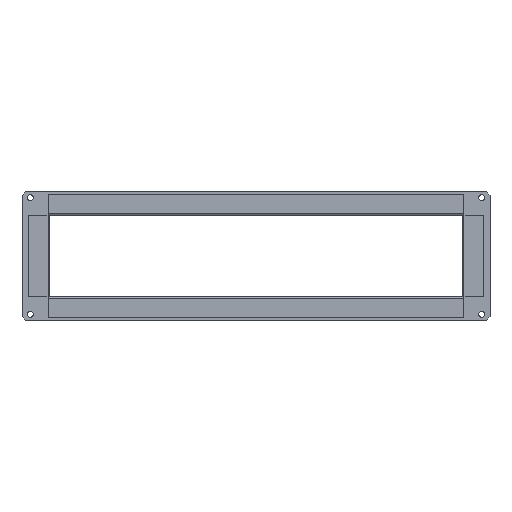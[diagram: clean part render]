
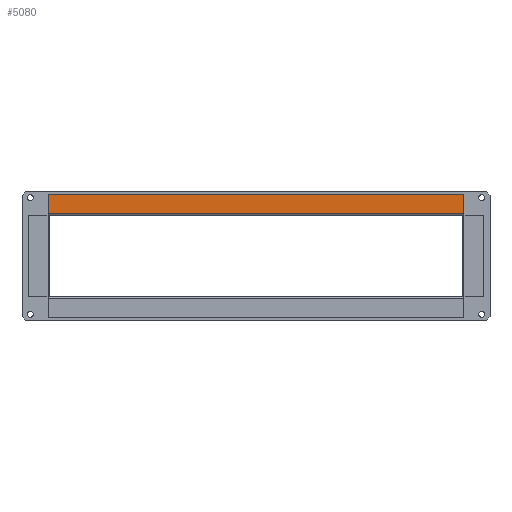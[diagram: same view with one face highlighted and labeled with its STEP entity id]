
A CAD part, top view. The second image highlights one B-rep face of the part: STEP entity #5080.
In plain terms, the highlighted planar face has unit normal (0, 0, 1) as drawn and (0, 0, -1) by its records, which use the part's own axes.
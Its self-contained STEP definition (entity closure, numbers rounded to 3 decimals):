
#136 = PLANE ( 'NONE',  #660 ) ;
#268 = EDGE_CURVE ( 'NONE', #1874, #4935, #2111, .T. ) ;
#273 = ORIENTED_EDGE ( 'NONE', *, *, #4079, .T. ) ;
#442 = ORIENTED_EDGE ( 'NONE', *, *, #268, .F. ) ;
#660 = AXIS2_PLACEMENT_3D ( 'NONE', #2198, #5776, #2715 ) ;
#705 = EDGE_LOOP ( 'NONE', ( #442, #2132, #767, #273 ) ) ;
#744 = DIRECTION ( 'NONE',  ( -1., 0., 0. ) ) ;
#767 = ORIENTED_EDGE ( 'NONE', *, *, #3829, .T. ) ;
#888 = LINE ( 'NONE', #1660, #4991 ) ;
#1001 = CARTESIAN_POINT ( 'NONE',  ( 250.8, 1.8, 0. ) ) ;
#1058 = CARTESIAN_POINT ( 'NONE',  ( 250.8, 0., 0. ) ) ;
#1545 = CARTESIAN_POINT ( 'NONE',  ( -250.8, 1.8, 0. ) ) ;
#1583 = CARTESIAN_POINT ( 'NONE',  ( -250.8, 0., 0. ) ) ;
#1655 = CARTESIAN_POINT ( 'NONE',  ( -250.8, 25., 0. ) ) ;
#1660 = CARTESIAN_POINT ( 'NONE',  ( 250.8, 25., 0. ) ) ;
#1874 = VERTEX_POINT ( 'NONE', #1655 ) ;
#2111 = LINE ( 'NONE', #1583, #6042 ) ;
#2132 = ORIENTED_EDGE ( 'NONE', *, *, #3957, .F. ) ;
#2198 = CARTESIAN_POINT ( 'NONE',  ( 250.8, 0., 0. ) ) ;
#2715 = DIRECTION ( 'NONE',  ( -1., 0., 0. ) ) ;
#3058 = LINE ( 'NONE', #1058, #4273 ) ;
#3277 = VERTEX_POINT ( 'NONE', #1001 ) ;
#3829 = EDGE_CURVE ( 'NONE', #4658, #3277, #3058, .T. ) ;
#3957 = EDGE_CURVE ( 'NONE', #4658, #1874, #888, .T. ) ;
#4034 = VECTOR ( 'NONE', #744, 1000. ) ;
#4079 = EDGE_CURVE ( 'NONE', #3277, #4935, #6564, .T. ) ;
#4144 = DIRECTION ( 'NONE',  ( 0., -1., 0. ) ) ;
#4273 = VECTOR ( 'NONE', #4144, 1000. ) ;
#4366 = CARTESIAN_POINT ( 'NONE',  ( 250.8, 1.8, 0. ) ) ;
#4658 = VERTEX_POINT ( 'NONE', #4993 ) ;
#4935 = VERTEX_POINT ( 'NONE', #1545 ) ;
#4991 = VECTOR ( 'NONE', #5259, 1000. ) ;
#4993 = CARTESIAN_POINT ( 'NONE',  ( 250.8, 25., 0. ) ) ;
#5080 = ADVANCED_FACE ( 'NONE', ( #6236 ), #136, .T. ) ;
#5259 = DIRECTION ( 'NONE',  ( -1., 0., 0. ) ) ;
#5758 = DIRECTION ( 'NONE',  ( 0., -1., 0. ) ) ;
#5776 = DIRECTION ( 'NONE',  ( 0., 0., -1. ) ) ;
#6042 = VECTOR ( 'NONE', #5758, 1000. ) ;
#6236 = FACE_OUTER_BOUND ( 'NONE', #705, .T. ) ;
#6564 = LINE ( 'NONE', #4366, #4034 ) ;
